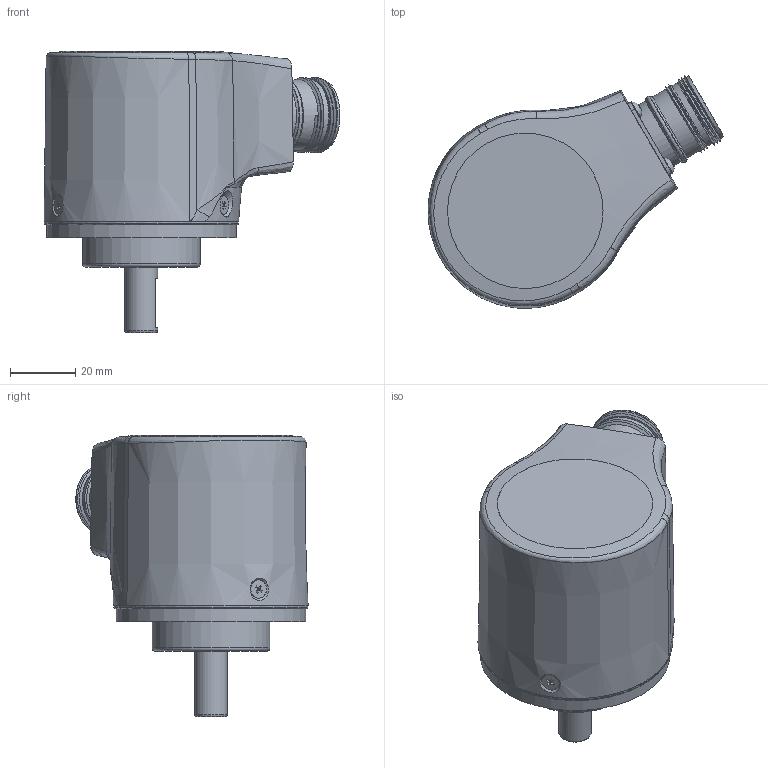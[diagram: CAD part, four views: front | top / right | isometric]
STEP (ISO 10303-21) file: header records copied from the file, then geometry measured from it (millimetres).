
FILE_DESCRIPTION(/* description */ ('Unknown'),/* implementation_level */ '2;1');
FILE_NAME(/* name */ 'EAR_EAMR_58_C_HAR',/* time_stamp */ '2018-04-19T15:18:52+02:00',/* author */ ('Unknown'),/* organization */ ('Unknown'),/* preprocessor_version */ 'ST-DEVELOPER v16.7',/* originating_system */ 'DEX',/* authorisation */ $);
FILE_SCHEMA (('AUTOMOTIVE_DESIGN {1 0 10303 214 3 1 1}'));
Length unit declared in the file: millimetre
Products named in the file (1): tmpEA_EAMR_58_C_HAR
Bounding box: 90.55 x 71.12 x 86 mm (x, y, z)
Volume: 85691.6 mm3; surface area: 45900.9 mm2
Topology: 2 solids, 17 shells, 481 faces, 1186 edges, 779 vertices
Faces by surface type: plane 233, cylinder 132, cone 60, torus 23, bspline 21, sphere 12
Full cylindrical faces by diameter (mm): 1 x12, 1.15 x12, 1.65 x12, 2.013 x7, 2.459 x7, 2.5 x3, 3 x10, 3.1 x4, 3.4 x3, 5.6 x3, 6 x4, 8 x6, 10 x1, 10.4 x1, 18.5 x1, 19.25 x1, 20 x1, 21.5 x6, 22 x3, 22.1 x2, 22.667 x1, 22.691 x1, 29 x2, 36 x1, 51.2 x1, 54 x3, 56 x1, 58 x1, 59.5 x1
Entity records: 18965 total; most frequent: CARTESIAN_POINT 6122, DIRECTION 1925, ORIENTED_EDGE 1664, EDGE_CURVE 832, AXIS2_PLACEMENT_3D 817, FACE_BOUND 769, EDGE_LOOP 754, VERTEX_POINT 653
